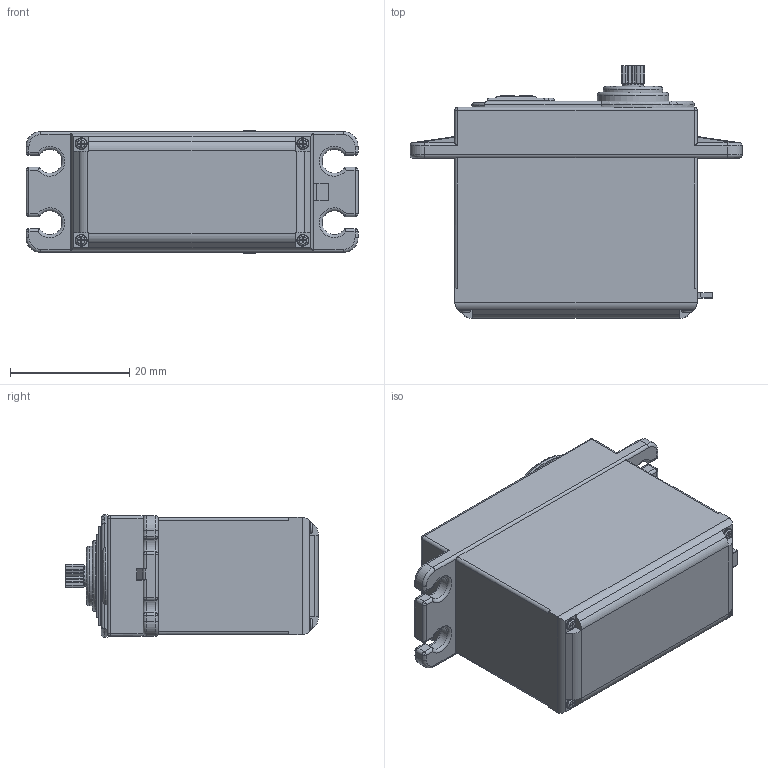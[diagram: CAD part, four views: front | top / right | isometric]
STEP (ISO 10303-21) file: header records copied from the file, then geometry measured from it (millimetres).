
FILE_DESCRIPTION(/* description */ ('STEP AP242 Edition 2','CAx-IF Rec.Pracs.---Representation and Presentation of Product Manufacturing Information (PMI)---4.0---2014-10-13','CAx-IF Rec.Pracs.---3D Tessellated Geometry---0.4---2014-09-14','2;1','CAx-IF Rec.Pracs.---User Defined Attributes---1.5---2016-08-15'),/* implementation_level */ '2;1');
FILE_NAME(/* name */ 'Assembly 1 - Part 1 (9)',/* time_stamp */ '2026-06-19T18:21:08Z',/* author */ (''),/* organization */ (''),/* preprocessor_version */ 'ST-DEVELOPER v20',/* originating_system */ 'ONSHAPE BY PTC INC, 1.216',/* authorisation */ ' ');
FILE_SCHEMA (('AP242_MANAGED_MODEL_BASED_3D_ENGINEERING_MIM_LF { 1 0 10303 442 3 1 4 }'));
Length unit declared in the file: metre
Products named in the file (1): Part 1
Bounding box: 55.7 x 42.4 x 20.59 mm (x, y, z)
Volume: 29903.8 mm3; surface area: 6692.3 mm2
Topology: 1 solids, 1 shells, 622 faces, 1682 edges, 1067 vertices
Faces by surface type: plane 324, cylinder 144, bspline 95, torus 35, sphere 24
Full cylindrical faces by diameter (mm): 1.769 x1, 1.8 x4, 2 x5, 3.5 x1, 10 x1, 12 x1
Entity records: 24061 total; most frequent: CARTESIAN_POINT 5404, ORIENTED_EDGE 3152, DIRECTION 2594, EDGE_CURVE 1576, VERTEX_POINT 1008, LINE 950, VECTOR 950, AXIS2_PLACEMENT_3D 822
